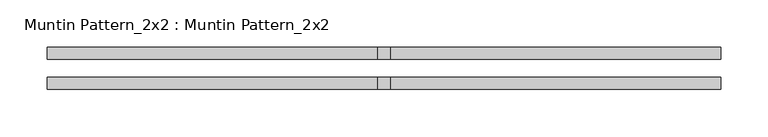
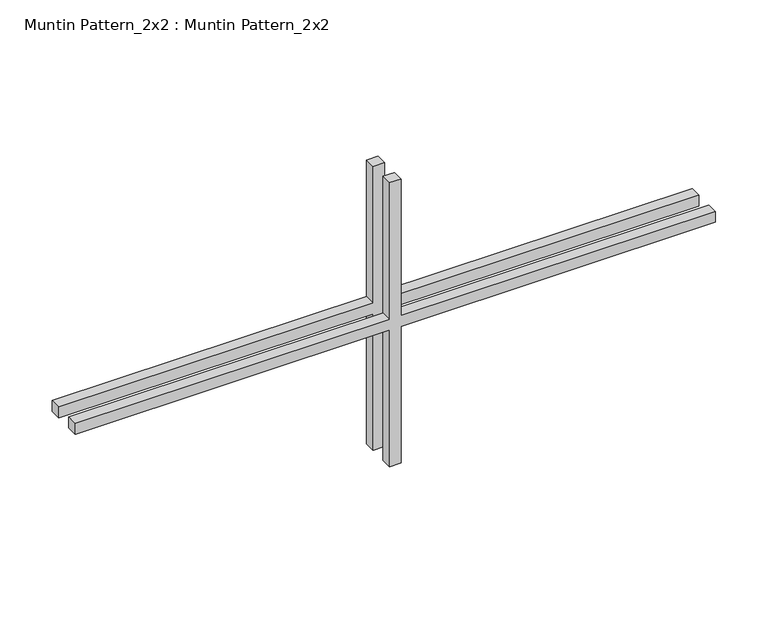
"""IFC4 building model written with IfcOpenShell, lengths in millimetres: proxy geometry, Muntin Pattern_2x2 : Muntin Pattern_2x2."""

import ifcopenshell
import ifcopenshell.guid

model = None  # the IFC model being written
_history = None  # IfcOwnerHistory: only IFC2X3 demands one
_inside = {}  # id of a spatial element -> (the spatial element, [elements in it])
_under = {}  # id of a project, library or spatial element -> (it, [spatial elements below it])
_declared = {}  # id of a project -> (the project, [libraries it declares])
_typed = {}  # id of a type object -> (the type object, [elements of that type])
_made_of = {}  # id of a material, layer set ... -> (it, [elements and type objects made of it])


def new_model(schema):
    """Start an empty IFC model of exactly this schema.

    Asked for "IFC4X3", IfcOpenShell would pick the latest addendum, in which some entities
    have other attributes; the version numbers below select the first issue.
    IFC2X3 requires an IfcOwnerHistory on every rooted entity: one is made here for all.
    """
    global model, _history
    if schema == "IFC4X3":
        model = ifcopenshell.file(schema_version=(4, 3, 0, 0))
    else:
        model = ifcopenshell.file(schema=schema)
    _inside.clear()
    _under.clear()
    _declared.clear()
    _typed.clear()
    _made_of.clear()
    _history = None
    if model.schema == "IFC2X3":
        org = make("IfcOrganization", Name="unknown")
        user = make(
            "IfcPersonAndOrganization",
            ThePerson=make("IfcPerson", FamilyName="unknown"),
            TheOrganization=org,
        )
        app = make(
            "IfcApplication",
            ApplicationDeveloper=org,
            Version="unknown",
            ApplicationFullName="unknown",
            ApplicationIdentifier="unknown",
        )
        _history = make(
            "IfcOwnerHistory",
            OwningUser=user,
            OwningApplication=app,
            ChangeAction="ADDED",
            CreationDate=0,
        )
    return model


def make(cls, **values):
    """One entity of the class cls with the attributes given. An attribute that is None is left unset."""
    return model.create_entity(
        cls, **{name: value for name, value in values.items() if value is not None}
    )


def rooted(cls, **values):
    """An entity with a GlobalId (a new one), such as an element, a storey or a relation."""
    return make(cls, GlobalId=ifcopenshell.guid.new(), OwnerHistory=_history, **values)


def si_unit(unit_type, name, prefix=None):
    """IfcSIUnit, for example si_unit("LENGTHUNIT", "METRE", prefix="MILLI")."""
    return make("IfcSIUnit", UnitType=unit_type, Prefix=prefix, Name=name)


def assignment(units):
    """IfcUnitAssignment: the units of a project."""
    return None if units is None else make("IfcUnitAssignment", Units=units)


def point(xyz):
    """IfcCartesianPoint."""
    return None if xyz is None else make("IfcCartesianPoint", Coordinates=xyz)


def direction(xyz):
    """IfcDirection."""
    return None if xyz is None else make("IfcDirection", DirectionRatios=xyz)


def frame(location, z_axis=None, x_axis=None):
    """IfcAxis2Placement3D, a coordinate frame: its origin and axes. An axis left out is left unset."""
    return make(
        "IfcAxis2Placement3D",
        Location=point(location),
        Axis=direction(z_axis),
        RefDirection=direction(x_axis),
    )


def origin():
    """The frame at (0, 0, 0) with its axes left unset."""
    return frame((0.0, 0.0, 0.0))


def place(relative_to, where):
    """IfcLocalPlacement: puts the frame where relative to a parent placement (None: the world)."""
    return make(
        "IfcLocalPlacement", PlacementRelTo=relative_to, RelativePlacement=where
    )


def context(
    kind, dimensions, precision=None, world=None, true_north=None, identifier=None
):
    """IfcGeometricRepresentationContext, for example the 3D "Model" context."""
    return make(
        "IfcGeometricRepresentationContext",
        ContextIdentifier=identifier,
        ContextType=kind,
        CoordinateSpaceDimension=dimensions,
        Precision=precision,
        WorldCoordinateSystem=world,
        TrueNorth=true_north,
    )


def project(units=None, contexts=None):
    """IfcProject with its units and contexts."""
    return rooted(
        "IfcProject",
        Name="project",
        RepresentationContexts=contexts,
        UnitsInContext=assignment(units),
    )


def spatial(cls, under=None, at=None, **own):
    """A site, building, storey or space (cls), placed at a placement, below another one or the project."""
    s = rooted(cls, ObjectPlacement=at, **own)
    if under is not None:
        _under.setdefault(under.id(), (under, []))[1].append(s)
    return s


def polyline(points):
    """IfcPolyline through the points."""
    return make("IfcPolyline", Points=[point(p) for p in points])


def outline(outer, holes=None, kind="AREA"):
    """IfcArbitraryClosedProfileDef: a profile drawn as a closed curve; with holes, ...WithVoids."""
    if holes is None:
        return make("IfcArbitraryClosedProfileDef", ProfileType=kind, OuterCurve=outer)
    return make(
        "IfcArbitraryProfileDefWithVoids",
        ProfileType=kind,
        OuterCurve=outer,
        InnerCurves=holes,
    )


def extrude(swept, where, along, depth):
    """IfcExtrudedAreaSolid: the profile swept, set in the frame where, extruded along a direction by depth."""
    return make(
        "IfcExtrudedAreaSolid",
        SweptArea=swept,
        Position=where,
        ExtrudedDirection=direction(along),
        Depth=depth,
    )


def shape(context_of_items, identifier, shape_type, items):
    """IfcShapeRepresentation: the items that make up one representation, for example the "Body"."""
    return make(
        "IfcShapeRepresentation",
        ContextOfItems=context_of_items,
        RepresentationIdentifier=identifier,
        RepresentationType=shape_type,
        Items=items,
    )


def source(mapping_origin, context_of_items, identifier, shape_type, items):
    """IfcRepresentationMap: a shape defined once, which mapped items show again and again."""
    return make(
        "IfcRepresentationMap",
        MappingOrigin=mapping_origin,
        MappedRepresentation=shape(context_of_items, identifier, shape_type, items),
    )


def transform(
    local_origin,
    x_axis=None,
    y_axis=None,
    z_axis=None,
    scale=None,
    scale2=None,
    scale3=None,
    uniform=True,
):
    """IfcCartesianTransformationOperator3D, or its non-uniform kind. x_axis, y_axis, z_axis: its Axis1, 2, 3."""
    if uniform:
        return make(
            "IfcCartesianTransformationOperator3D",
            Axis1=direction(x_axis),
            Axis2=direction(y_axis),
            LocalOrigin=point(local_origin),
            Scale=scale,
            Axis3=direction(z_axis),
        )
    return make(
        "IfcCartesianTransformationOperator3DnonUniform",
        Axis1=direction(x_axis),
        Axis2=direction(y_axis),
        LocalOrigin=point(local_origin),
        Scale=scale,
        Axis3=direction(z_axis),
        Scale2=scale2,
        Scale3=scale3,
    )


def mapped(mapping_source, mapping_target):
    """IfcMappedItem: shows the shape of a source again, moved by a transform."""
    return make(
        "IfcMappedItem", MappingSource=mapping_source, MappingTarget=mapping_target
    )


def made_of(thing, what):
    """Note that an element or type object is made of a material, layer set ...; save() writes the relation."""
    if what is not None:
        _made_of.setdefault(what.id(), (what, []))[1].append(thing)
    return thing


def element(
    cls,
    number,
    at=None,
    inside=None,
    cuts=None,
    type_object=None,
    material=None,
    context=None,
    identifier="Body",
    shape_type=None,
    held_by="IfcProductDefinitionShape",
    body=None,
    shapes=None,
    **own,
):
    """One element of the class cls, such as IfcWall. Its Tag is "e" and its number.

    at: its placement. inside: the storey or other place that contains it. cuts: it is an
    opening in that element (IfcRelVoidsElement). A single representation is given by context,
    identifier, shape_type and body (its items); several are given by shapes. held_by: the class
    of the entity that holds the representations. save() writes the other relations.
    """
    e = rooted(cls, Tag="e%d" % number, ObjectPlacement=at, **own)
    if body is not None:
        shapes = [shape(context, identifier, shape_type, body)]
    if shapes is not None:
        e.Representation = make(held_by, Representations=shapes)
    if inside is not None:
        _inside.setdefault(inside.id(), (inside, []))[1].append(e)
    if cuts is not None:
        rooted(
            "IfcRelVoidsElement", RelatingBuildingElement=cuts, RelatedOpeningElement=e
        )
    if type_object is not None:
        _typed.setdefault(type_object.id(), (type_object, []))[1].append(e)
    return made_of(e, material)


def aggregate(whole, parts):
    """IfcRelAggregates: a whole, such as a stair, and the parts it consists of."""
    return rooted("IfcRelAggregates", RelatingObject=whole, RelatedObjects=parts)


def save(model, path):
    """Write the relations noted so far, then the file.

    IfcRelAggregates (storeys below a building ...), IfcRelContainedInSpatialStructure (elements
    in a storey), IfcRelDefinesByType, IfcRelAssociatesMaterial and IfcRelDeclares: one each for
    every whole, place, type object, material and project.
    """
    for whole, parts in _under.values():
        aggregate(whole, parts)
    for where, things in _inside.values():
        rooted(
            "IfcRelContainedInSpatialStructure",
            RelatedElements=things,
            RelatingStructure=where,
        )
    for kind, things in _typed.values():
        rooted("IfcRelDefinesByType", RelatedObjects=things, RelatingType=kind)
    for what, things in _made_of.values():
        rooted("IfcRelAssociatesMaterial", RelatedObjects=things, RelatingMaterial=what)
    for by, libraries in _declared.values():
        rooted("IfcRelDeclares", RelatingContext=by, RelatedDefinitions=libraries)
    model.write(path)


def muntin_pattern_2x2_muntin_pattern_2x2_c2d573db(model_context):
    return source(origin(), model_context, "Body", "SweptSolid", [
        extrude(outline(polyline([(173.0375, -6.35), (173.0375, -355.6), (160.3375, -355.6), (160.3375, -6.35), (0.0, -6.35), (0.0, 6.35), (160.3375, 6.35), (160.3375, 355.6), (173.0375, 355.6), (173.0375, 6.35), (333.375, 6.35), (333.375, -6.35), (173.0375, -6.35)])), frame((0.0, 9.525, 0.0), z_axis=(0.0, 1.0, 0.0), x_axis=(0.0, 0.0, 1.0)), (0.0, 0.0, 1.0), 12.7),
        extrude(outline(polyline([(173.0375, -6.35), (173.0375, -355.6), (160.3375, -355.6), (160.3375, -6.35), (0.0, -6.35), (0.0, 6.35), (160.3375, 6.35), (160.3375, 355.6), (173.0375, 355.6), (173.0375, 6.35), (333.375, 6.35), (333.375, -6.35), (173.0375, -6.35)])), frame((0.0, -22.225, 0.0), z_axis=(0.0, 1.0, 0.0), x_axis=(0.0, 0.0, 1.0)), (0.0, 0.0, 1.0), 12.7),
    ])


if __name__ == "__main__":
    model = new_model("IFC4")
    model_context = context("Model", 3, world=origin())
    ifc_project = project(units=[si_unit("LENGTHUNIT", "METRE", prefix="MILLI")], contexts=[model_context])
    site = spatial("IfcSite", under=ifc_project)
    building = spatial("IfcBuilding", under=site)
    placement = place(None, origin())
    muntin_pattern_2x2_muntin_pattern_2x2_shape = muntin_pattern_2x2_muntin_pattern_2x2_c2d573db(model_context)
    element("IfcBuildingElementProxy", 1, Name="Muntin Pattern_2x2 : Muntin Pattern_2x2", ObjectType="Muntin Pattern_2x2 : Muntin Pattern_2x2", at=placement, inside=building, context=model_context, shape_type="MappedRepresentation", body=[
        mapped(muntin_pattern_2x2_muntin_pattern_2x2_shape, transform((0.0, 0.0, 0.0), x_axis=(1.0, 0.0, 0.0), y_axis=(0.0, 1.0, 0.0), z_axis=(0.0, 0.0, 1.0))),
    ])
    save(model, "model.ifc")
